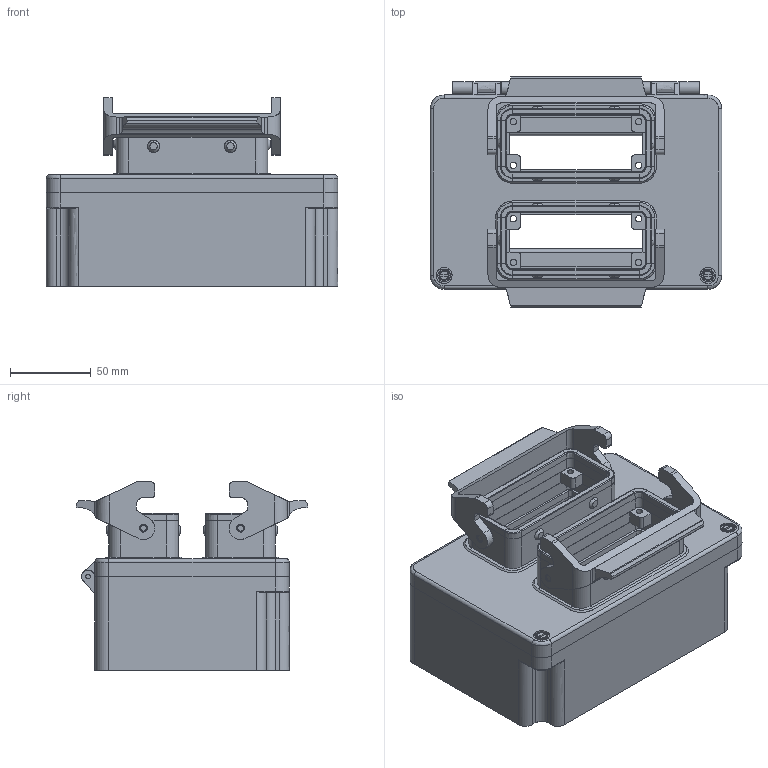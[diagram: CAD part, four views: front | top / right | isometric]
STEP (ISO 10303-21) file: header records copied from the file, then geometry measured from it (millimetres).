
FILE_DESCRIPTION( ( 'STEP AP214' ), '1' );
FILE_NAME( 'C:/Dokumente und Einstellungen/Administrator/Desktop/47 Kabelboxen/G4/6/gr_4_16e_16e-bb.stp', '2006-09-10T20:36:07', ( ' ' ), ( ' ' ), 'XStep 1.0', 'VISICAD', ' ' );
FILE_SCHEMA( ( 'automotive_design' ) );
Length unit declared in the file: millimetre
Products named in the file (1175): 1; 2; 3; 4; 5; 6; 7; 8; 9; 10; 11; 12; 13; 14; 15; 16; 17; 18; 19; 20; 21; 22; 23; 24; 25; 26; 27; 28; 29; 30; 31; 32; 33; 34; 35; 36; 37; 38; 39; 40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
Bounding box: 180 x 142.97 x 116.7 mm (x, y, z)
Surface area: 207200 mm2 (no closed solid volume)
Topology: 0 solids, 1175 shells, 1175 faces, 5858 edges, 5858 vertices
Faces by surface type: plane 571, bspline 324, revolution 240, cylinder 40
Entity records: 129201 total; most frequent: CARTESIAN_POINT 59258, DIRECTION 8384, ORIENTED_EDGE 5858, EDGE_CURVE 5858, VERTEX_POINT 5858, LINE 3318, VECTOR 3318, AXIS2_PLACEMENT_3D 2413
